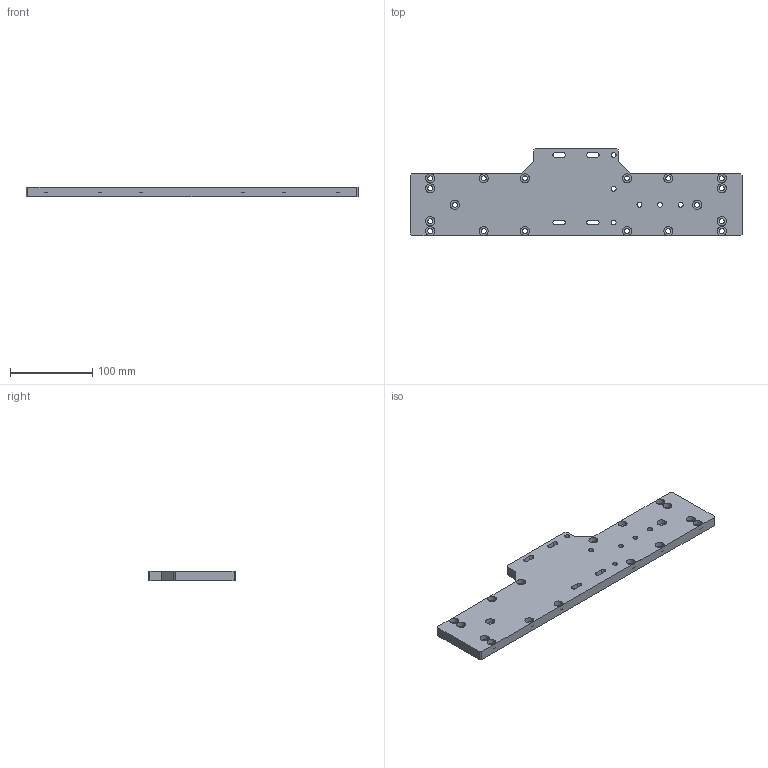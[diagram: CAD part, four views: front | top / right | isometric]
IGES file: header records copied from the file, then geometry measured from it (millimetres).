
Start section:  PTC IGES file: h160-k80l-tp.igs
Global section: file name: h160-k80l-tp.igs; native system: Pro/ENGINEER by Parametric Technology Corporation; preprocessor: 2008230; author: Owner; organization: Unknown; date: 20121211.142220; units: millimetre
Bounding box: 403 x 106 x 12 mm (x, y, z)
Surface area: 87003.7 mm2 (no closed solid volume)
Topology: 0 solids, 0 shells, 174 faces, 904 edges, 900 vertices
Faces by surface type: revolution 112, bspline 62
